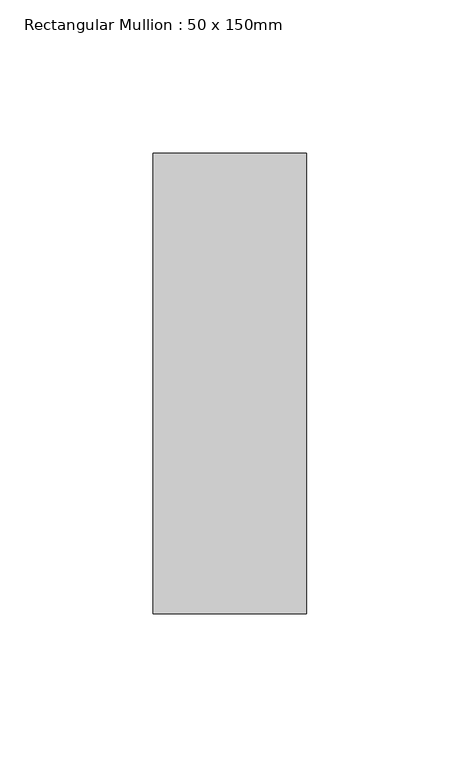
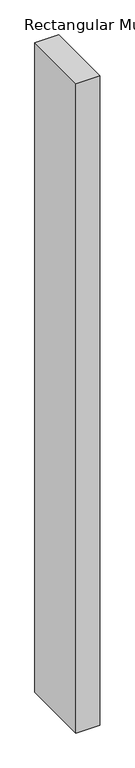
"""IFC4 building model written with IfcOpenShell, lengths in millimetres: member geometry, Rectangular Mullion : 50 x 150mm."""

from ifc_helpers import new_model, si_unit, frame, origin, place, context, project, spatial, polyline, outline, extrude, source, transform, mapped, element, save


def rectangular_mullion_50_x_150mm_20f04808(model_context):
    return source(origin(), model_context, "Body", "SweptSolid", [
        extrude(outline(polyline([(0.0, 75.0), (0.0, -75.0), (-50.0, -75.0), (-50.0, 75.0), (0.0, 75.0)])), frame((0.0, 0.0, -1449.0000003), z_axis=(0.0, 0.0, 1.0), x_axis=(1.0, 0.0, 0.0)), (0.0, 0.0, 1.0), 1449.0000003),
    ])


if __name__ == "__main__":
    model = new_model("IFC4")
    model_context = context("Model", 3, world=origin())
    ifc_project = project(units=[si_unit("LENGTHUNIT", "METRE", prefix="MILLI")], contexts=[model_context])
    site = spatial("IfcSite", under=ifc_project)
    building = spatial("IfcBuilding", under=site)
    placement = place(None, origin())
    rectangular_mullion_50_x_150mm_shape = rectangular_mullion_50_x_150mm_20f04808(model_context)
    element("IfcMember", 1, ObjectType="Rectangular Mullion : 50 x 150mm", at=placement, inside=building, context=model_context, shape_type="MappedRepresentation", body=[
        mapped(rectangular_mullion_50_x_150mm_shape, transform((0.0, 0.0, 0.0), x_axis=(1.0, 0.0, 0.0), y_axis=(0.0, 1.0, 0.0), z_axis=(0.0, 0.0, 1.0))),
    ])
    save(model, "model.ifc")
